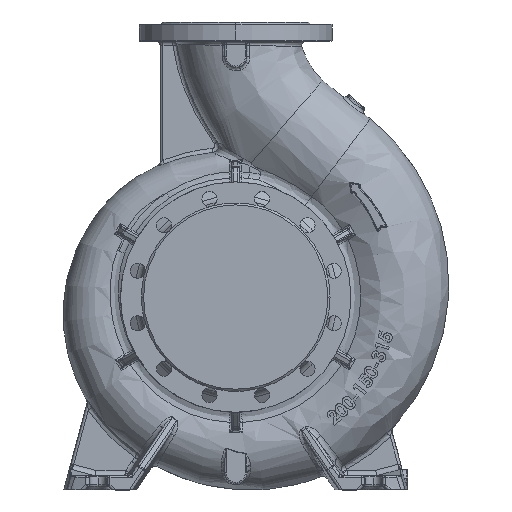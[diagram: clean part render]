
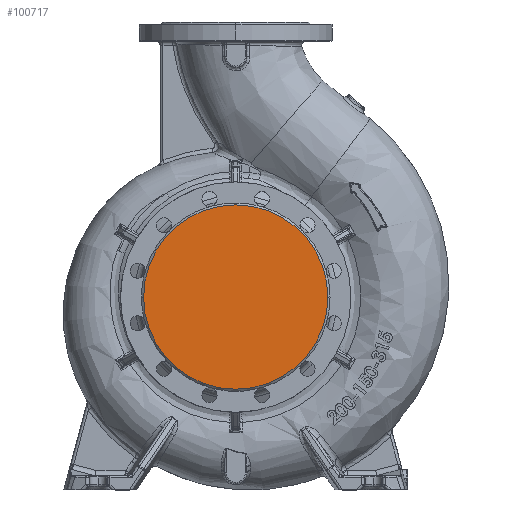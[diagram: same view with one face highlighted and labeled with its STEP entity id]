
A CAD part, top view. The second image highlights one B-rep face of the part: STEP entity #100717.
In plain terms, the highlighted planar face has unit normal (0, 0, 1).
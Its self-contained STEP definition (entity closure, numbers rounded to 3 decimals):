
#7986 = EDGE_LOOP ( 'NONE', ( #26419, #75625 ) ) ;
#15912 = AXIS2_PLACEMENT_3D ( 'NONE', #97185, #48231, #63934 ) ;
#26419 = ORIENTED_EDGE ( 'NONE', *, *, #50780, .T. ) ;
#27542 = VERTEX_POINT ( 'NONE', #91288 ) ;
#29447 = CARTESIAN_POINT ( 'NONE',  ( 0., 0., 160. ) ) ;
#32633 = CARTESIAN_POINT ( 'NONE',  ( 0., 0., 160. ) ) ;
#48231 = DIRECTION ( 'NONE',  ( 0., 0., 1. ) ) ;
#50780 = EDGE_CURVE ( 'NONE', #84134, #27542, #102444, .T. ) ;
#63344 = DIRECTION ( 'NONE',  ( 0., 0., 1. ) ) ;
#63934 = DIRECTION ( 'NONE',  ( 1., 0., 0. ) ) ;
#70096 = DIRECTION ( 'NONE',  ( 1., 0., 0. ) ) ;
#73299 = PLANE ( 'NONE',  #88326 ) ;
#75625 = ORIENTED_EDGE ( 'NONE', *, *, #81716, .T. ) ;
#81716 = EDGE_CURVE ( 'NONE', #27542, #84134, #101684, .T. ) ;
#84134 = VERTEX_POINT ( 'NONE', #88329 ) ;
#85510 = AXIS2_PLACEMENT_3D ( 'NONE', #29447, #63344, #70096 ) ;
#88326 = AXIS2_PLACEMENT_3D ( 'NONE', #32633, #89751, #97995 ) ;
#88329 = CARTESIAN_POINT ( 'NONE',  ( -134., 0., 160. ) ) ;
#89751 = DIRECTION ( 'NONE',  ( 0., 0., 1. ) ) ;
#91288 = CARTESIAN_POINT ( 'NONE',  ( 134., 0., 160. ) ) ;
#97185 = CARTESIAN_POINT ( 'NONE',  ( 0., 0., 160. ) ) ;
#97995 = DIRECTION ( 'NONE',  ( 1., 0., 0. ) ) ;
#100717 = ADVANCED_FACE ( 'NONE', ( #105195 ), #73299, .T. ) ;
#101684 = CIRCLE ( 'NONE', #15912, 134. ) ;
#102444 = CIRCLE ( 'NONE', #85510, 134. ) ;
#105195 = FACE_OUTER_BOUND ( 'NONE', #7986, .T. ) ;
